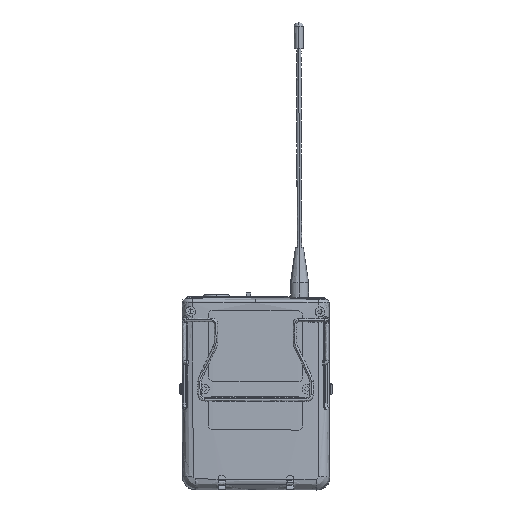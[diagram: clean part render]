
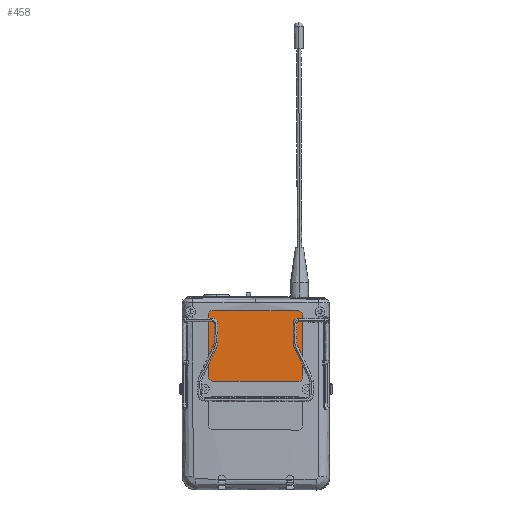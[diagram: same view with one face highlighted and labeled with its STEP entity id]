
A CAD part, left-side view. The second image highlights one B-rep face of the part: STEP entity #458.
In plain terms, the highlighted free-form (B-spline) face has degree [2, 1] with [3, 2] control points.
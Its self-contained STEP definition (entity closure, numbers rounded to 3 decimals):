
#458=ADVANCED_FACE('',(#1206),#10866,.T.);
#1206=FACE_OUTER_BOUND('',#1942,.T.);
#1942=EDGE_LOOP('',(#4230,#4231,#4232,#4233,#4234,#4235,#4236,#4237));
#4230=ORIENTED_EDGE('',*,*,#6776,.T.);
#4231=ORIENTED_EDGE('',*,*,#6781,.T.);
#4232=ORIENTED_EDGE('',*,*,#6782,.T.);
#4233=ORIENTED_EDGE('',*,*,#6783,.T.);
#4234=ORIENTED_EDGE('',*,*,#6778,.T.);
#4235=ORIENTED_EDGE('',*,*,#6780,.T.);
#4236=ORIENTED_EDGE('',*,*,#6779,.T.);
#4237=ORIENTED_EDGE('',*,*,#6777,.T.);
#6776=EDGE_CURVE('',#10109,#10110,#7902,.T.);
#6777=EDGE_CURVE('',#10111,#10109,#8909,.T.);
#6778=EDGE_CURVE('',#10107,#10108,#7903,.T.);
#6779=EDGE_CURVE('',#10112,#10111,#8910,.T.);
#6780=EDGE_CURVE('',#10108,#10112,#8911,.T.);
#6781=EDGE_CURVE('',#10110,#10114,#8912,.T.);
#6782=EDGE_CURVE('',#10114,#10113,#8913,.T.);
#6783=EDGE_CURVE('',#10113,#10107,#8914,.T.);
#7902=(
BOUNDED_CURVE()
B_SPLINE_CURVE(2,(#28558,#28559,#28560),.UNSPECIFIED.,.F.,.F.)
B_SPLINE_CURVE_WITH_KNOTS((3,3),(-38.007,0.),.UNSPECIFIED.)
CURVE()
GEOMETRIC_REPRESENTATION_ITEM()
RATIONAL_B_SPLINE_CURVE((1.,0.999,1.))
REPRESENTATION_ITEM('')
);
#7903=(
BOUNDED_CURVE()
B_SPLINE_CURVE(2,(#28570,#28571,#28572),.UNSPECIFIED.,.F.,.F.)
B_SPLINE_CURVE_WITH_KNOTS((3,3),(-38.007,0.),.UNSPECIFIED.)
CURVE()
GEOMETRIC_REPRESENTATION_ITEM()
RATIONAL_B_SPLINE_CURVE((1.,0.999,1.))
REPRESENTATION_ITEM('')
);
#8909=B_SPLINE_CURVE_WITH_KNOTS('',3,(#28561,#28562,#28563,#28564,#28565,
#28566,#28567,#28568,#28569),.UNSPECIFIED.,.F.,.F.,(4,1,1,1,1,1,4),(-3.167,
-2.639,-2.111,-1.583,-1.056,-0.528,
0.),.UNSPECIFIED.);
#8910=B_SPLINE_CURVE_WITH_KNOTS('',1,(#28573,#28574),.UNSPECIFIED.,.F.,
 .F.,(2,2),(0.,28.),.UNSPECIFIED.);
#8911=B_SPLINE_CURVE_WITH_KNOTS('',3,(#28575,#28576,#28577,#28578,#28579,
#28580,#28581,#28582,#28583),.UNSPECIFIED.,.F.,.F.,(4,1,1,1,1,1,4),(0.,
0.528,1.056,1.583,2.111,2.639,
3.167),.UNSPECIFIED.);
#8912=B_SPLINE_CURVE_WITH_KNOTS('',3,(#28584,#28585,#28586,#28587,#28588,
#28589,#28590,#28591,#28592),.UNSPECIFIED.,.F.,.F.,(4,1,1,1,1,1,4),(0.,
0.528,1.055,1.583,2.111,2.639,
3.167),.UNSPECIFIED.);
#8913=B_SPLINE_CURVE_WITH_KNOTS('',1,(#28593,#28594),.UNSPECIFIED.,.F.,
 .F.,(2,2),(0.,28.),.UNSPECIFIED.);
#8914=B_SPLINE_CURVE_WITH_KNOTS('',3,(#28595,#28596,#28597,#28598,#28599,
#28600,#28601,#28602,#28603),.UNSPECIFIED.,.F.,.F.,(4,1,1,1,1,1,4),(0.,
0.528,1.056,1.583,2.111,2.639,
3.167),.UNSPECIFIED.);
#10107=VERTEX_POINT('',#26417);
#10108=VERTEX_POINT('',#26418);
#10109=VERTEX_POINT('',#26419);
#10110=VERTEX_POINT('',#26420);
#10111=VERTEX_POINT('',#26421);
#10112=VERTEX_POINT('',#26422);
#10113=VERTEX_POINT('',#26423);
#10114=VERTEX_POINT('',#26424);
#10866=(
BOUNDED_SURFACE()
B_SPLINE_SURFACE(2,1,((#25885,#25886),(#25887,#25888),(#25889,#25890)),
 .UNSPECIFIED.,.F.,.F.,.F.)
B_SPLINE_SURFACE_WITH_KNOTS((3,3),(2,2),(0.,52.963),(0.,38.662),
 .UNSPECIFIED.)
GEOMETRIC_REPRESENTATION_ITEM()
RATIONAL_B_SPLINE_SURFACE(((1.,1.),(0.999,0.999),
(1.,1.)))
REPRESENTATION_ITEM('')
SURFACE()
);
#25885=CARTESIAN_POINT('',(-4.649,17.71,9.188));
#25886=CARTESIAN_POINT('',(-4.643,17.819,48.089));
#25887=CARTESIAN_POINT('',(-5.677,-9.398,9.115));
#25888=CARTESIAN_POINT('',(-5.671,-9.289,48.017));
#25889=CARTESIAN_POINT('',(-4.097,-36.532,9.044));
#25890=CARTESIAN_POINT('',(-4.091,-36.423,47.945));
#26417=CARTESIAN_POINT('',(-4.886,10.083,12.519));
#26418=CARTESIAN_POINT('',(-4.49,-28.88,12.415));
#26419=CARTESIAN_POINT('',(-4.485,-28.79,44.614));
#26420=CARTESIAN_POINT('',(-4.881,10.173,44.717));
#26421=CARTESIAN_POINT('',(-4.39,-30.847,42.596));
#26422=CARTESIAN_POINT('',(-4.394,-30.926,14.422));
#26423=CARTESIAN_POINT('',(-4.832,12.139,14.537));
#26424=CARTESIAN_POINT('',(-4.828,12.218,42.71));
#28558=CARTESIAN_POINT('',(-4.485,-28.79,44.614));
#28559=CARTESIAN_POINT('',(-5.356,-9.301,44.665));
#28560=CARTESIAN_POINT('',(-4.881,10.173,44.717));
#28561=CARTESIAN_POINT('',(-4.39,-30.847,42.596));
#28562=CARTESIAN_POINT('',(-4.39,-30.847,42.771));
#28563=CARTESIAN_POINT('',(-4.392,-30.799,43.123));
#28564=CARTESIAN_POINT('',(-4.402,-30.59,43.614));
#28565=CARTESIAN_POINT('',(-4.418,-30.259,44.037));
#28566=CARTESIAN_POINT('',(-4.438,-29.828,44.361));
#28567=CARTESIAN_POINT('',(-4.46,-29.327,44.566));
#28568=CARTESIAN_POINT('',(-4.477,-28.969,44.613));
#28569=CARTESIAN_POINT('',(-4.485,-28.79,44.614));
#28570=CARTESIAN_POINT('',(-4.886,10.083,12.519));
#28571=CARTESIAN_POINT('',(-5.361,-9.391,12.467));
#28572=CARTESIAN_POINT('',(-4.49,-28.88,12.415));
#28573=CARTESIAN_POINT('',(-4.394,-30.926,14.422));
#28574=CARTESIAN_POINT('',(-4.39,-30.847,42.596));
#28575=CARTESIAN_POINT('',(-4.49,-28.88,12.415));
#28576=CARTESIAN_POINT('',(-4.482,-29.059,12.415));
#28577=CARTESIAN_POINT('',(-4.466,-29.417,12.46));
#28578=CARTESIAN_POINT('',(-4.442,-29.917,12.662));
#28579=CARTESIAN_POINT('',(-4.423,-30.346,12.985));
#28580=CARTESIAN_POINT('',(-4.407,-30.675,13.405));
#28581=CARTESIAN_POINT('',(-4.397,-30.881,13.896));
#28582=CARTESIAN_POINT('',(-4.394,-30.927,14.247));
#28583=CARTESIAN_POINT('',(-4.394,-30.926,14.422));
#28584=CARTESIAN_POINT('',(-4.881,10.173,44.717));
#28585=CARTESIAN_POINT('',(-4.877,10.357,44.718));
#28586=CARTESIAN_POINT('',(-4.868,10.71,44.672));
#28587=CARTESIAN_POINT('',(-4.855,11.211,44.47));
#28588=CARTESIAN_POINT('',(-4.844,11.638,44.148));
#28589=CARTESIAN_POINT('',(-4.835,11.966,43.729));
#28590=CARTESIAN_POINT('',(-4.829,12.172,43.237));
#28591=CARTESIAN_POINT('',(-4.828,12.219,42.891));
#28592=CARTESIAN_POINT('',(-4.828,12.218,42.71));
#28593=CARTESIAN_POINT('',(-4.828,12.218,42.71));
#28594=CARTESIAN_POINT('',(-4.832,12.139,14.537));
#28595=CARTESIAN_POINT('',(-4.832,12.139,14.537));
#28596=CARTESIAN_POINT('',(-4.832,12.139,14.356));
#28597=CARTESIAN_POINT('',(-4.834,12.09,14.01));
#28598=CARTESIAN_POINT('',(-4.84,11.881,13.516));
#28599=CARTESIAN_POINT('',(-4.849,11.551,13.096));
#28600=CARTESIAN_POINT('',(-4.86,11.122,12.772));
#28601=CARTESIAN_POINT('',(-4.873,10.62,12.567));
#28602=CARTESIAN_POINT('',(-4.882,10.267,12.519));
#28603=CARTESIAN_POINT('',(-4.886,10.083,12.519));
